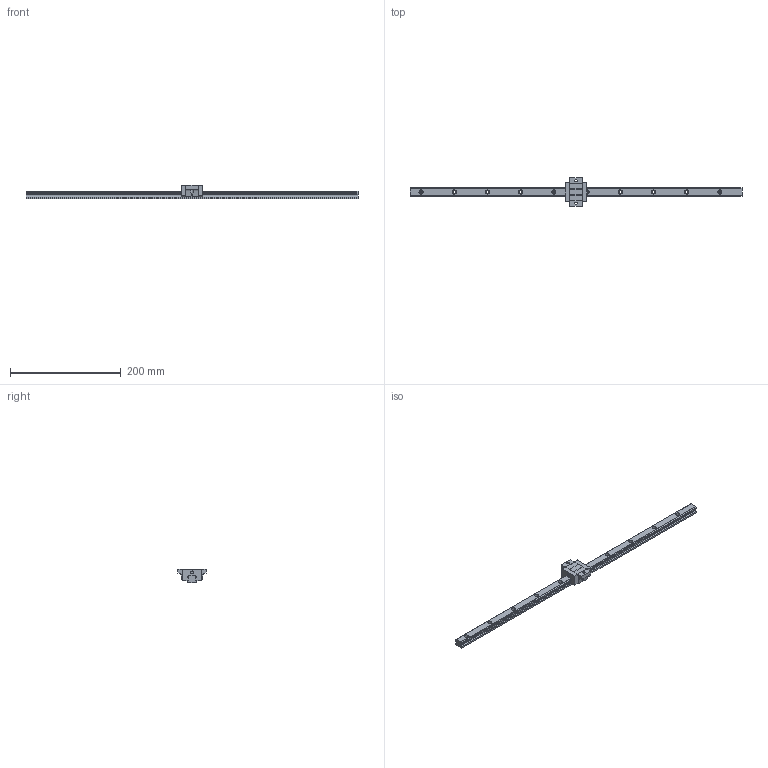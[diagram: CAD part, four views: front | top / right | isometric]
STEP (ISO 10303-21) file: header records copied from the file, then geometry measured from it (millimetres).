
FILE_DESCRIPTION (( 'STEP AP203' ), '1' );
FILE_NAME ('TRS15FS-XNC.STEP', '2024-08-16T07:05:24', ( '' ), ( '' ), 'SwSTEP 2.0', 'SolidWorks 2021', '' );
FILE_SCHEMA (( 'CONFIG_CONTROL_DESIGN' ));
Length unit declared in the file: millimetre
Products named in the file (1): TRS15FS-XNC
Bounding box: 600 x 52 x 24 mm (x, y, z)
Volume: 126088.2 mm3; surface area: 43634.5 mm2
Topology: 1 solids, 1 shells, 197 faces, 540 edges, 350 vertices
Faces by surface type: cylinder 100, plane 93, sphere 4
Entity records: 6548 total; most frequent: CARTESIAN_POINT 1287, DIRECTION 1112, ORIENTED_EDGE 1072, EDGE_CURVE 536, AXIS2_PLACEMENT_3D 392, VERTEX_POINT 350, VECTOR 328, LINE 328
